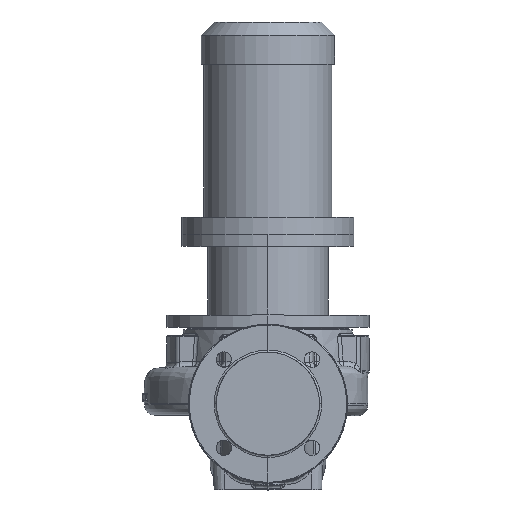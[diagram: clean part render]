
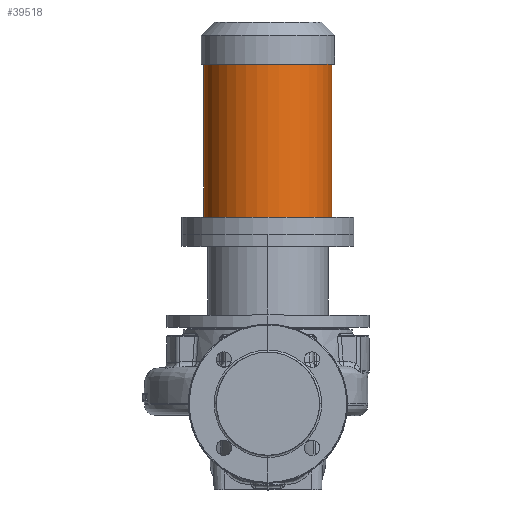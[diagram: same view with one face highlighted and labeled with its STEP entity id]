
A CAD part, top view. The second image highlights one B-rep face of the part: STEP entity #39518.
In plain terms, the highlighted cylindrical face has radius 74.5 mm (diameter 149 mm), a partial arc.
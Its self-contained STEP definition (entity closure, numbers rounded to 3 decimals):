
#1658 = CARTESIAN_POINT ( 'NONE',  ( 0., 197.3, 0. ) ) ;
#3084 = ORIENTED_EDGE ( 'NONE', *, *, #26275, .T. ) ;
#5500 = EDGE_CURVE ( 'NONE', #47248, #15142, #58212, .T. ) ;
#10354 = ORIENTED_EDGE ( 'NONE', *, *, #5500, .T. ) ;
#13356 = ORIENTED_EDGE ( 'NONE', *, *, #26913, .F. ) ;
#14080 = DIRECTION ( 'NONE',  ( -1., 0., 0. ) ) ;
#14219 = DIRECTION ( 'NONE',  ( 0., -1., 0. ) ) ;
#14648 = VECTOR ( 'NONE', #45500, 1000. ) ;
#15142 = VERTEX_POINT ( 'NONE', #26592 ) ;
#15845 = AXIS2_PLACEMENT_3D ( 'NONE', #66210, #61180, #65973 ) ;
#18367 = DIRECTION ( 'NONE',  ( 0., -1., 0. ) ) ;
#18523 = CARTESIAN_POINT ( 'NONE',  ( -74.5, 197.3, 0. ) ) ;
#25464 = CARTESIAN_POINT ( 'NONE',  ( 0., 395.3, 0. ) ) ;
#26072 = CARTESIAN_POINT ( 'NONE',  ( -74.5, 395.3, 0. ) ) ;
#26275 = EDGE_CURVE ( 'NONE', #55995, #47248, #48376, .T. ) ;
#26592 = CARTESIAN_POINT ( 'NONE',  ( -74.5, 217.3, 0. ) ) ;
#26913 = EDGE_CURVE ( 'NONE', #55995, #40107, #53441, .T. ) ;
#30251 = AXIS2_PLACEMENT_3D ( 'NONE', #25464, #14219, #46934 ) ;
#31548 = CARTESIAN_POINT ( 'NONE',  ( 74.5, 197.3, 0. ) ) ;
#32368 = CIRCLE ( 'NONE', #15845, 74.5 ) ;
#32968 = VECTOR ( 'NONE', #58995, 1000. ) ;
#36420 = CARTESIAN_POINT ( 'NONE',  ( 74.5, 217.3, 0. ) ) ;
#39518 = ADVANCED_FACE ( 'NONE', ( #46452 ), #65224, .T. ) ;
#40107 = VERTEX_POINT ( 'NONE', #36420 ) ;
#45500 = DIRECTION ( 'NONE',  ( 0., -1., 0. ) ) ;
#46452 = FACE_OUTER_BOUND ( 'NONE', #62237, .T. ) ;
#46934 = DIRECTION ( 'NONE',  ( -1., 0., 0. ) ) ;
#47248 = VERTEX_POINT ( 'NONE', #26072 ) ;
#48376 = CIRCLE ( 'NONE', #30251, 74.5 ) ;
#50734 = ORIENTED_EDGE ( 'NONE', *, *, #62280, .F. ) ;
#53441 = LINE ( 'NONE', #31548, #32968 ) ;
#55995 = VERTEX_POINT ( 'NONE', #64522 ) ;
#58212 = LINE ( 'NONE', #18523, #14648 ) ;
#58995 = DIRECTION ( 'NONE',  ( 0., -1., 0. ) ) ;
#61180 = DIRECTION ( 'NONE',  ( 0., -1., 0. ) ) ;
#62051 = AXIS2_PLACEMENT_3D ( 'NONE', #1658, #18367, #14080 ) ;
#62237 = EDGE_LOOP ( 'NONE', ( #13356, #3084, #10354, #50734 ) ) ;
#62280 = EDGE_CURVE ( 'NONE', #40107, #15142, #32368, .T. ) ;
#64522 = CARTESIAN_POINT ( 'NONE',  ( 74.5, 395.3, 0. ) ) ;
#65224 = CYLINDRICAL_SURFACE ( 'NONE', #62051, 74.5 ) ;
#65973 = DIRECTION ( 'NONE',  ( -1., 0., 0. ) ) ;
#66210 = CARTESIAN_POINT ( 'NONE',  ( 0., 217.3, 0. ) ) ;
